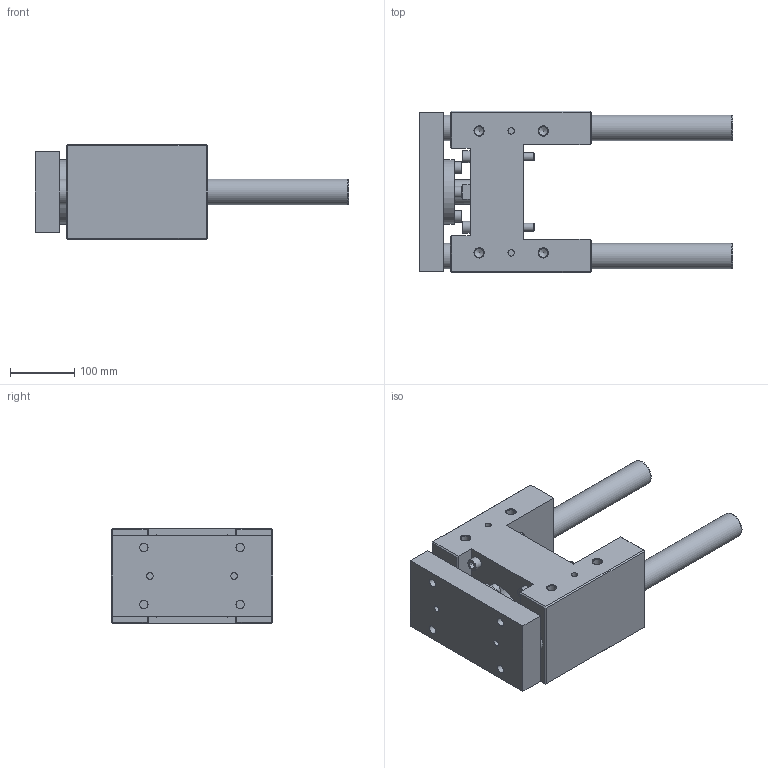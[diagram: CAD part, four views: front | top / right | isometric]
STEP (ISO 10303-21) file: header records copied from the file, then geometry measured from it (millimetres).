
FILE_DESCRIPTION( ( 'STEP AP214' ), '1' );
FILE_NAME( 'U:/Etudes/Top Solid/BIBLIO 3D AVM/TOP/PNEUMATIQUE/GUIDAGES/Type 32 (en H)/S_Lourde/320S4130.step', '2005-05-27T09:30:56', ( ' ' ), ( ' ' ), 'XStep 1.0', ' ', ' ' );
FILE_SCHEMA( ( 'automotive_design' ) );
Length unit declared in the file: metre
Products named in the file (2): 1; 2
Bounding box: 488 x 252 x 148 mm (x, y, z)
Volume: 6836202.3 mm3; surface area: 588660 mm2
Topology: 2 solids, 7 shells, 238 faces, 524 edges, 339 vertices
Faces by surface type: plane 149, cylinder 68, cone 21
Full cylindrical faces by diameter (mm): 10 x4, 10.106 x4, 12 x16, 13 x12, 13.835 x8, 18 x8, 20 x4, 24.835 x1, 39 x1, 40 x4, 42 x1, 57 x1, 60 x2, 65 x1, 100 x1
Entity records: 7905 total; most frequent: CARTESIAN_POINT 1198, DIRECTION 996, ORIENTED_EDGE 784, EDGE_CURVE 392, EDGE_LOOP 390, AXIS2_PLACEMENT_3D 372, FACE_OUTER_BOUND 306, VERTEX_POINT 302
